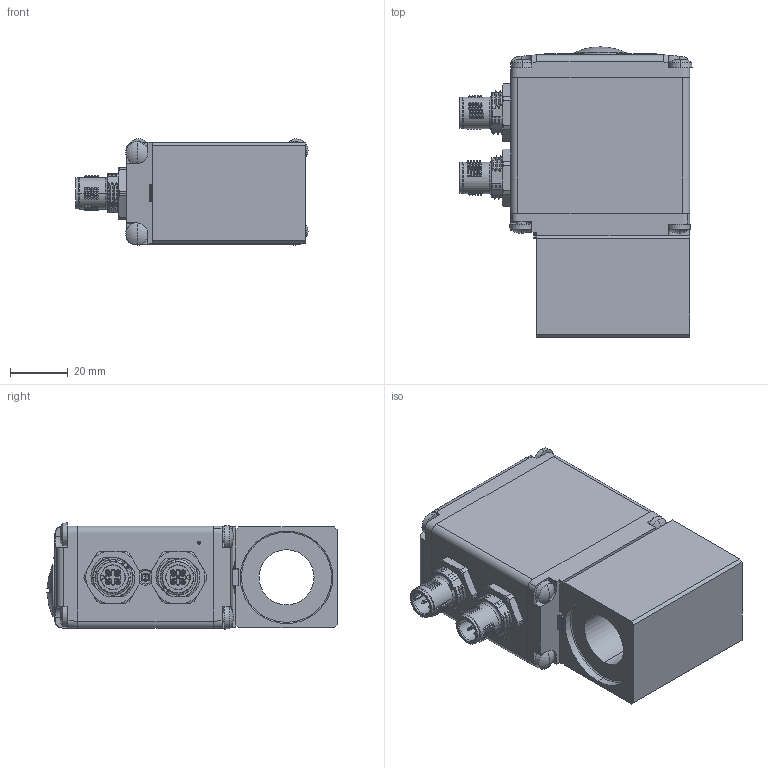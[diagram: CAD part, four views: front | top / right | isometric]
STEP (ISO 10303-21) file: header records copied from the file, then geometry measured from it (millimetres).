
FILE_DESCRIPTION (( 'STEP AP214' ), '1' );
FILE_NAME ('ME35_19x50-...-C..STEP', '2014-04-03T06:55:34', ( '' ), ( '' ), 'SwSTEP 2.0', 'SolidWorks 2012', '' );
FILE_SCHEMA (( 'AUTOMOTIVE_DESIGN' ));
Length unit declared in the file: millimetre
Products named in the file (1): ME35_19x50-...-C.
Bounding box: 80.3 x 100.39 x 36.78 mm (x, y, z)
Volume: 119557.8 mm3; surface area: 45513.7 mm2
Topology: 4 solids, 4 shells, 2465 faces, 6773 edges, 4389 vertices
Faces by surface type: plane 1338, cylinder 672, torus 187, bspline 123, cone 113, sphere 32
Entity records: 90298 total; most frequent: CARTESIAN_POINT 25098, ORIENTED_EDGE 13522, DIRECTION 11846, EDGE_CURVE 6761, VERTEX_POINT 4389, LINE 4336, VECTOR 4336, AXIS2_PLACEMENT_3D 3755
